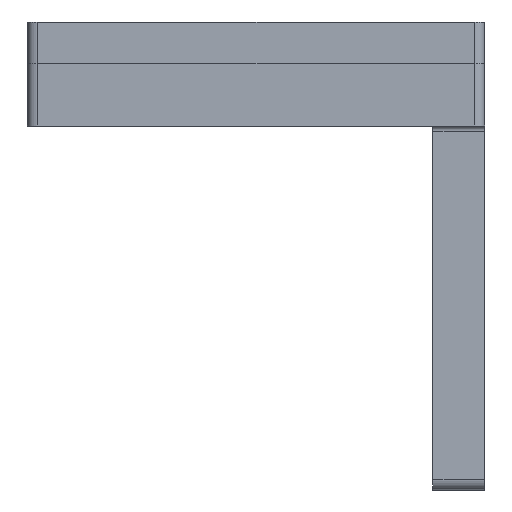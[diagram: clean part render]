
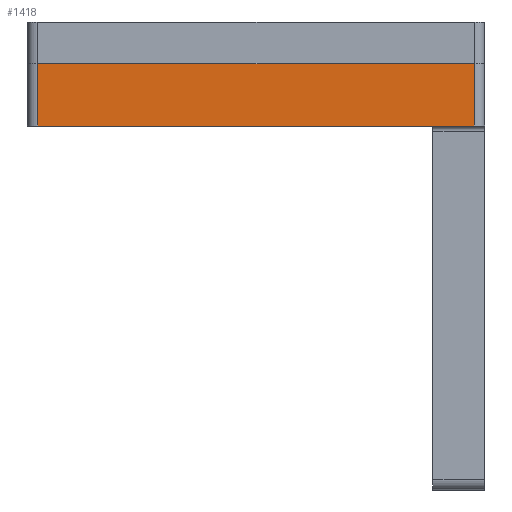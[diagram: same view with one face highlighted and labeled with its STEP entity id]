
A CAD part, left-side view. The second image highlights one B-rep face of the part: STEP entity #1418.
In plain terms, the highlighted planar face has unit normal (-1, 0, 0).
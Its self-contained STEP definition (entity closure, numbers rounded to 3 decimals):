
#3 = CARTESIAN_POINT ( 'NONE',  ( 8., 22., -6. ) ) ;
#132 = VECTOR ( 'NONE', #3036, 1000. ) ;
#294 = LINE ( 'NONE', #3, #132 ) ;
#320 = PLANE ( 'NONE',  #1072 ) ;
#403 = CARTESIAN_POINT ( 'NONE',  ( 8., 21., -6. ) ) ;
#439 = DIRECTION ( 'NONE',  ( 0., 1., 0. ) ) ;
#501 = ORIENTED_EDGE ( 'NONE', *, *, #2228, .T. ) ;
#525 = CARTESIAN_POINT ( 'NONE',  ( 8., -21., -6. ) ) ;
#555 = CARTESIAN_POINT ( 'NONE',  ( 8., -21., 0. ) ) ;
#696 = CARTESIAN_POINT ( 'NONE',  ( 8., 21., 0. ) ) ;
#1004 = ORIENTED_EDGE ( 'NONE', *, *, #2978, .T. ) ;
#1072 = AXIS2_PLACEMENT_3D ( 'NONE', #1084, #2072, #1338 ) ;
#1084 = CARTESIAN_POINT ( 'NONE',  ( 8., 22., -6. ) ) ;
#1112 = EDGE_CURVE ( 'NONE', #2268, #2115, #1713, .T. ) ;
#1247 = VECTOR ( 'NONE', #3052, 1000. ) ;
#1338 = DIRECTION ( 'NONE',  ( 0., 0., -1. ) ) ;
#1346 = EDGE_CURVE ( 'NONE', #2581, #1379, #294, .T. ) ;
#1379 = VERTEX_POINT ( 'NONE', #2333 ) ;
#1418 = ADVANCED_FACE ( 'NONE', ( #2372 ), #320, .F. ) ;
#1557 = VECTOR ( 'NONE', #439, 1000. ) ;
#1667 = LINE ( 'NONE', #525, #1247 ) ;
#1713 = LINE ( 'NONE', #2709, #1557 ) ;
#1802 = EDGE_LOOP ( 'NONE', ( #2029, #501, #2447, #1004 ) ) ;
#2029 = ORIENTED_EDGE ( 'NONE', *, *, #1112, .T. ) ;
#2072 = DIRECTION ( 'NONE',  ( 1., 0., 0. ) ) ;
#2115 = VERTEX_POINT ( 'NONE', #696 ) ;
#2228 = EDGE_CURVE ( 'NONE', #2115, #1379, #2889, .T. ) ;
#2268 = VERTEX_POINT ( 'NONE', #555 ) ;
#2333 = CARTESIAN_POINT ( 'NONE',  ( 8., 21., -6. ) ) ;
#2371 = CARTESIAN_POINT ( 'NONE',  ( 8., -21., -6. ) ) ;
#2372 = FACE_OUTER_BOUND ( 'NONE', #1802, .T. ) ;
#2447 = ORIENTED_EDGE ( 'NONE', *, *, #1346, .F. ) ;
#2581 = VERTEX_POINT ( 'NONE', #2371 ) ;
#2709 = CARTESIAN_POINT ( 'NONE',  ( 8., 22., 0. ) ) ;
#2807 = VECTOR ( 'NONE', #3202, 1000. ) ;
#2889 = LINE ( 'NONE', #403, #2807 ) ;
#2978 = EDGE_CURVE ( 'NONE', #2581, #2268, #1667, .T. ) ;
#3036 = DIRECTION ( 'NONE',  ( 0., 1., 0. ) ) ;
#3052 = DIRECTION ( 'NONE',  ( 0., 0., 1. ) ) ;
#3202 = DIRECTION ( 'NONE',  ( 0., 0., -1. ) ) ;
